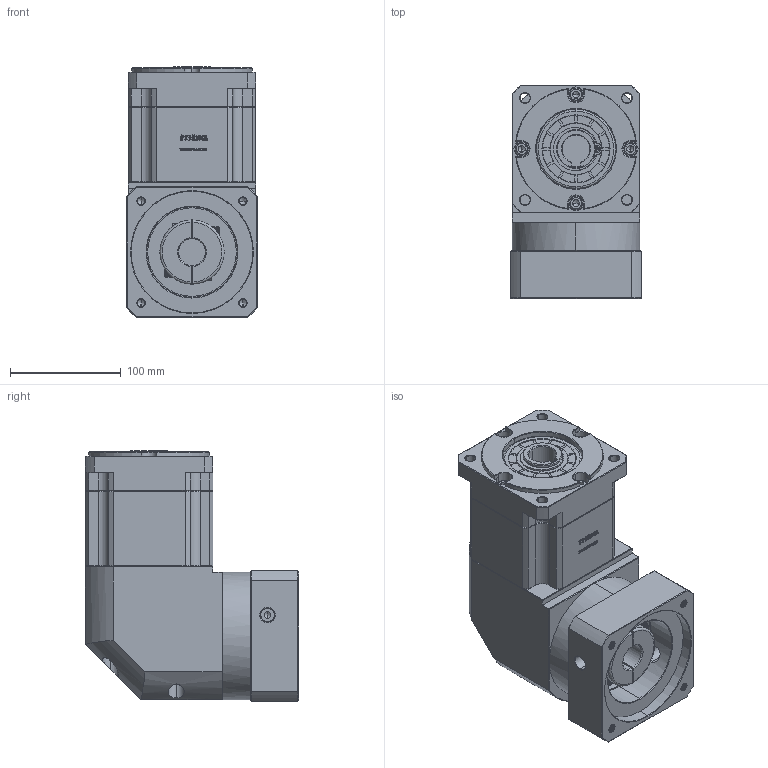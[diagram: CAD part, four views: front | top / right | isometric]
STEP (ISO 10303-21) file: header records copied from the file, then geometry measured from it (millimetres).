
FILE_DESCRIPTION (( 'STEP AP214' ), '1' );
FILE_NAME ('ZBR115A-K25-L2-24-110-130-M8.step', '2023-03-03T05:07:30', ( '' ), ( 'Microsoft' ), 'SwSTEP 2.0', 'SolidWorks 2016', '' );
FILE_SCHEMA (( 'AUTOMOTIVE_DESIGN' ));
Length unit declared in the file: millimetre
Products named in the file (1): ZBR115A-K25-L2-24-110-130-M8
Bounding box: 118 x 192.4 x 226.5 mm (x, y, z)
Volume: 3219024.2 mm3; surface area: 257066.8 mm2
Topology: 6 solids, 6 shells, 2926 faces, 7778 edges, 4998 vertices
Faces by surface type: plane 1552, bspline 597, cylinder 406, cone 363, torus 8
Entity records: 156433 total; most frequent: CARTESIAN_POINT 56127, ORIENTED_EDGE 15500, DIRECTION 11771, EDGE_CURVE 7750, LINE 5255, VECTOR 5255, VERTEX_POINT 4998, AXIS2_PLACEMENT_3D 3258
